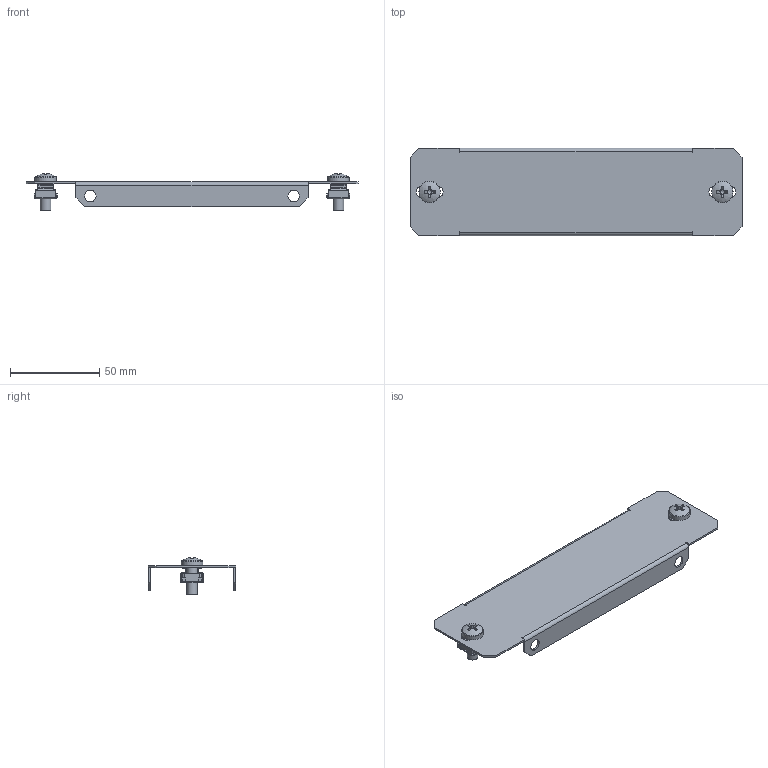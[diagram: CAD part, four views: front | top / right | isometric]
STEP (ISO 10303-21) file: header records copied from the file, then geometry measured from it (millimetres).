
FILE_DESCRIPTION (( 'STEP AP203' ), '1' );
FILE_NAME ('MA1.400.060000.01.00 Ïëàñòðîí Â50 Ø300 EKF AleSta-FP5M300.STEP', '2024-12-02T12:44:08', ( '' ), ( '' ), 'SwSTEP 2.0', 'SolidWorks 2021', '' );
FILE_SCHEMA (( 'CONFIG_CONTROL_DESIGN' ));
Length unit declared in the file: millimetre
Products named in the file (6): MA1.400.060000.01.01 Ïëàñòðîí Â50 Ø600 EKF AleSta_˜=300; Ãàéêà çàêëàäêàÿ Ì6; Îáîëî÷êà ãàéêè çàêëàäíîé; MA1.400.060000.01.00 Ïëàñòðîí Â50 Ø300 EKF AleSta-FP5M300; pan head cross recess screw_din_DIN EN ISO 7045 - M6 x 16 - Z - 16N; Ãàéêà çàêëàäíàÿ
Assembly tree (7 placements, depth 3):
  MA1.400.060000.01.00 Ïëàñòðîí Â50 Ø300 EKF AleSta-FP5M300
    MA1.400.060000.01.01 Ïëàñòðîí Â50 Ø600 EKF AleSta_˜=300
    Ãàéêà çàêëàäíàÿ  x2
      Îáîëî÷êà ãàéêè çàêëàäíîé
      Ãàéêà çàêëàäêàÿ Ì6
    pan head cross recess screw_din_DIN EN ISO 7045 - M6 x 16 - Z - 16N  x2
Bounding box: 186 x 49 x 20.48 mm (x, y, z)
Volume: 14572.4 mm3; surface area: 28212.2 mm2
Topology: 7 solids, 7 shells, 370 faces, 832 edges, 478 vertices
Faces by surface type: plane 242, cylinder 76, bspline 32, cone 14, torus 4, sphere 2
Full cylindrical faces by diameter (mm): 6 x4, 6.5 x4, 7 x2, 12 x2
Entity records: 6996 total; most frequent: CARTESIAN_POINT 1617, DIRECTION 954, ORIENTED_EDGE 952, EDGE_CURVE 476, VECTOR 336, LINE 336, AXIS2_PLACEMENT_3D 309, VERTEX_POINT 284
